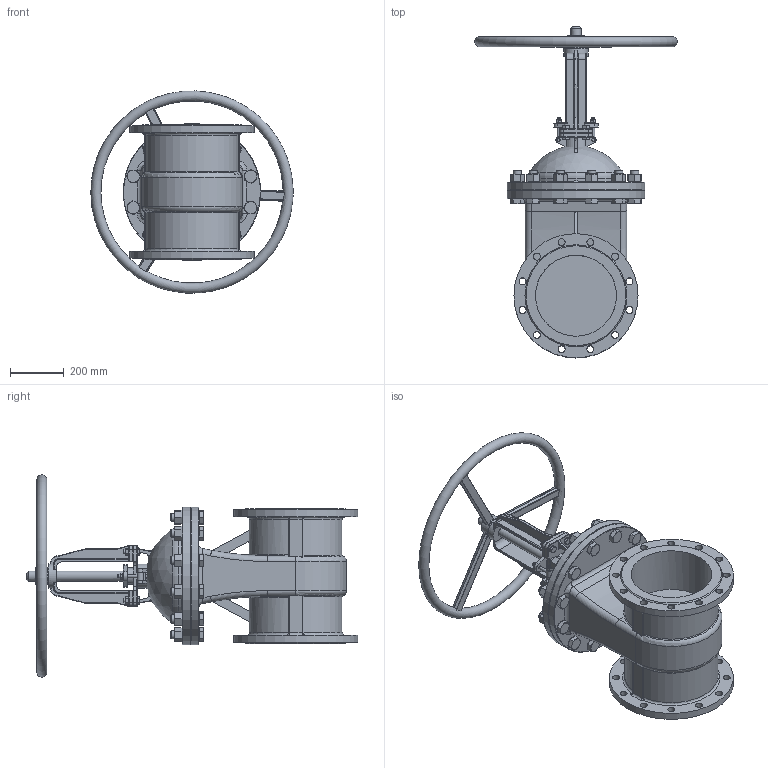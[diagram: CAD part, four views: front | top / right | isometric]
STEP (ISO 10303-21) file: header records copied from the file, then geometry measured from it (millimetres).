
FILE_DESCRIPTION(('STEP AP242'), '1');
FILE_NAME('GVWR2626M-2W-F-S Çàäâèæêà êëèíîâàÿ ñ âûäâèæíûì øòîêîì DN.ru Äó300 Ðó16', '', ('UNSPECIFIED'), ('UNSPECIFIED'), 'C3D Converter', 'C3D Toolkit', '');
FILE_SCHEMA(('AP242_MANAGED_MODEL_BASED_3D_ENGINEERING_MIM_LF { 1 0 10303 442 1 1 4 }'));
Length unit declared in the file: millimetre
Products named in the file (1): GVWR2626M-2W-F-S
Bounding box: 749.92 x 1230 x 748.94 mm (x, y, z)
Volume: 70277092.1 mm3; surface area: 3107149.7 mm2
Topology: 1 solids, 13 shells, 1350 faces, 3217 edges, 1956 vertices
Faces by surface type: plane 576, cylinder 291, cone 289, bspline 103, torus 86, sphere 5
Full cylindrical faces by diameter (mm): 10.5 x4, 12 x4, 15 x8, 22.5 x2, 24 x4, 26 x24, 30 x36, 37.5 x2, 41.85 x12, 45 x9, 60 x3, 75 x1, 90 x1, 300 x2, 360 x2, 460 x2, 510 x2
Entity records: 77277 total; most frequent: CARTESIAN_POINT 37664, ORIENTED_EDGE 6054, DIRECTION 5410, EDGE_CURVE 3027, AXIS2_PLACEMENT_3D 2173, VERTEX_POINT 1951, EDGE_LOOP 1722, FACE_BOUND 1497
